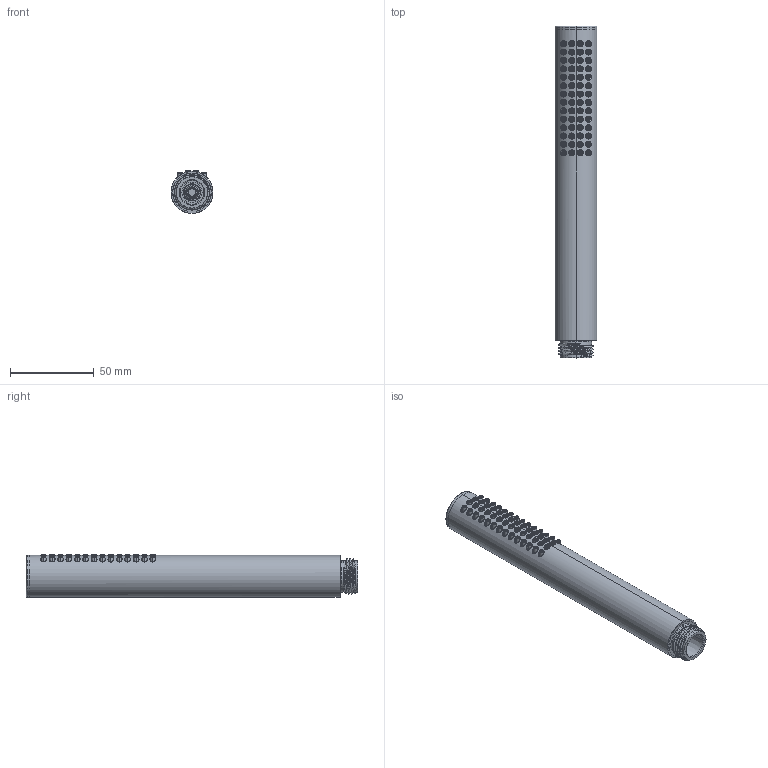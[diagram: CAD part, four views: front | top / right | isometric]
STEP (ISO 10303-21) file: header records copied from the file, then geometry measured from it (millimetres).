
FILE_DESCRIPTION((''),'2;1');
FILE_NAME('76664--00_ASM','2022-06-14T08:14:57',('sosm1'),(''),'CREO PARAMETRIC BY PTC INC, 2018190','CREO PARAMETRIC BY PTC INC, 2018190','');
FILE_SCHEMA(('CONFIG_CONTROL_DESIGN'));
Products named in the file (8): 76664_POS1; 76664_POS2; 76664--_SUB02_ASM; 76664_POS3; 76664_POS4; 76664_POS5; 76664--_SUB01_ASM; 76664--00_ASM
Assembly tree (7 placements, depth 4):
  76664--00_ASM
    76664--_SUB01_ASM
      76664--_SUB02_ASM
        76664_POS1
        76664_POS2
      76664_POS3
      76664_POS4
      76664_POS5
Bounding box: 25 x 197.75 x 25.5 mm (x, y, z)
Volume: 19702.1 mm3; surface area: 34935 mm2
Topology: 60 solids, 60 shells, 889 faces, 2113 edges, 1336 vertices
Faces by surface type: cylinder 377, plane 134, bspline 127, torus 127, cone 122, sphere 2
Entity records: 47552 total; most frequent: CARTESIAN_POINT 27383, ORIENTED_EDGE 4222, DIRECTION 3921, EDGE_CURVE 2111, AXIS2_PLACEMENT_3D 1665, VERTEX_POINT 1336, EDGE_LOOP 1139, FACE_OUTER_BOUND 889
